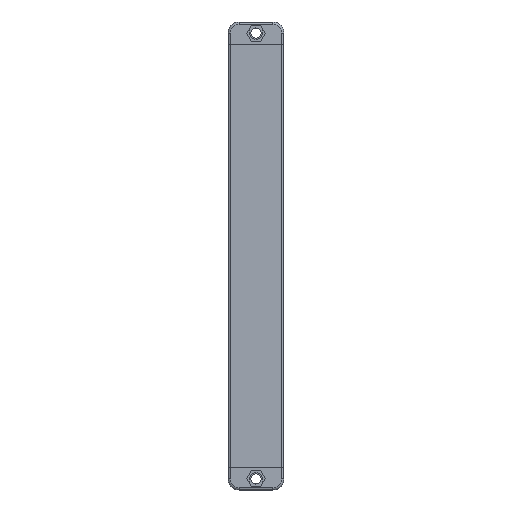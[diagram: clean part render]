
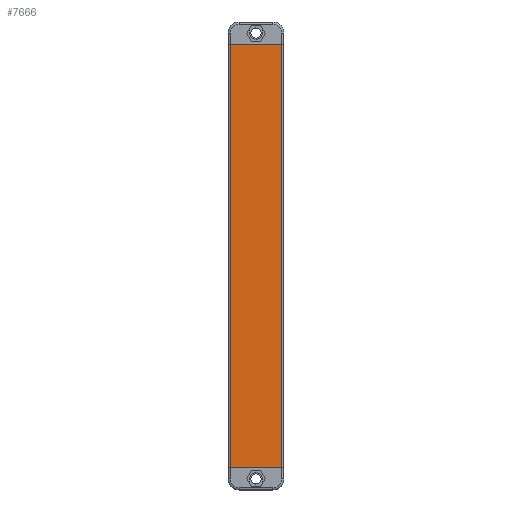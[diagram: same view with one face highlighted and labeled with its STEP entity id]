
A CAD part, front view. The second image highlights one B-rep face of the part: STEP entity #7666.
In plain terms, the highlighted planar face has unit normal (0, -1, 0).
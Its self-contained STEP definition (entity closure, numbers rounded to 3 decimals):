
#591 = PLANE ( 'NONE',  #2921 ) ;
#1132 = LINE ( 'NONE', #4660, #7857 ) ;
#1492 = CARTESIAN_POINT ( 'NONE',  ( 11.5, -6., 190. ) ) ;
#1614 = CARTESIAN_POINT ( 'NONE',  ( 11.5, -6., 0. ) ) ;
#2134 = CARTESIAN_POINT ( 'NONE',  ( -11.5, -6., 0. ) ) ;
#2655 = DIRECTION ( 'NONE',  ( 0., 0., -1. ) ) ;
#2921 = AXIS2_PLACEMENT_3D ( 'NONE', #4125, #7671, #11218 ) ;
#3030 = EDGE_LOOP ( 'NONE', ( #9502, #5086, #4226, #7766 ) ) ;
#3214 = LINE ( 'NONE', #6739, #5764 ) ;
#4065 = EDGE_CURVE ( 'NONE', #6897, #8560, #3214, .T. ) ;
#4125 = CARTESIAN_POINT ( 'NONE',  ( -0.005, -6., 190. ) ) ;
#4226 = ORIENTED_EDGE ( 'NONE', *, *, #4065, .F. ) ;
#4254 = LINE ( 'NONE', #7791, #5625 ) ;
#4660 = CARTESIAN_POINT ( 'NONE',  ( 11.5, -6., 190. ) ) ;
#4812 = VERTEX_POINT ( 'NONE', #1614 ) ;
#5086 = ORIENTED_EDGE ( 'NONE', *, *, #10346, .F. ) ;
#5625 = VECTOR ( 'NONE', #11345, 1000. ) ;
#5764 = VECTOR ( 'NONE', #10281, 1000. ) ;
#6011 = VERTEX_POINT ( 'NONE', #2134 ) ;
#6739 = CARTESIAN_POINT ( 'NONE',  ( -11.5, -6., 190. ) ) ;
#6897 = VERTEX_POINT ( 'NONE', #8578 ) ;
#7059 = LINE ( 'NONE', #10612, #9969 ) ;
#7666 = ADVANCED_FACE ( 'NONE', ( #8536 ), #591, .F. ) ;
#7671 = DIRECTION ( 'NONE',  ( 0., 1., 0. ) ) ;
#7766 = ORIENTED_EDGE ( 'NONE', *, *, #8750, .T. ) ;
#7791 = CARTESIAN_POINT ( 'NONE',  ( -0.005, -6., 0. ) ) ;
#7857 = VECTOR ( 'NONE', #8200, 1000. ) ;
#8200 = DIRECTION ( 'NONE',  ( 0., 0., -1. ) ) ;
#8536 = FACE_OUTER_BOUND ( 'NONE', #3030, .T. ) ;
#8560 = VERTEX_POINT ( 'NONE', #1492 ) ;
#8578 = CARTESIAN_POINT ( 'NONE',  ( -11.5, -6., 190. ) ) ;
#8750 = EDGE_CURVE ( 'NONE', #6897, #6011, #7059, .T. ) ;
#9502 = ORIENTED_EDGE ( 'NONE', *, *, #10529, .T. ) ;
#9969 = VECTOR ( 'NONE', #2655, 1000. ) ;
#10281 = DIRECTION ( 'NONE',  ( 1., 0., 0. ) ) ;
#10346 = EDGE_CURVE ( 'NONE', #8560, #4812, #1132, .T. ) ;
#10529 = EDGE_CURVE ( 'NONE', #6011, #4812, #4254, .T. ) ;
#10612 = CARTESIAN_POINT ( 'NONE',  ( -11.5, -6., 190. ) ) ;
#11218 = DIRECTION ( 'NONE',  ( 0., 0., 1. ) ) ;
#11345 = DIRECTION ( 'NONE',  ( 1., 0., 0. ) ) ;
